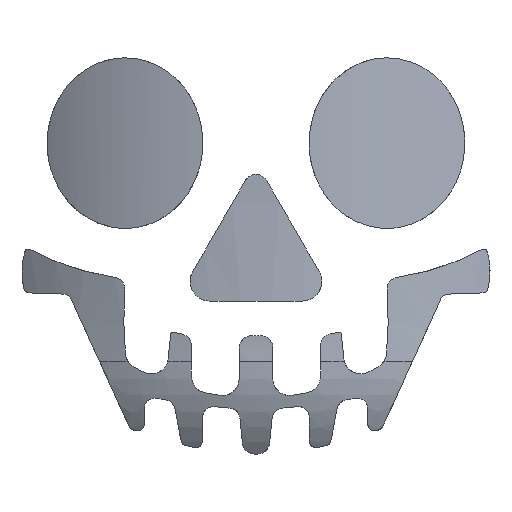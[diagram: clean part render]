
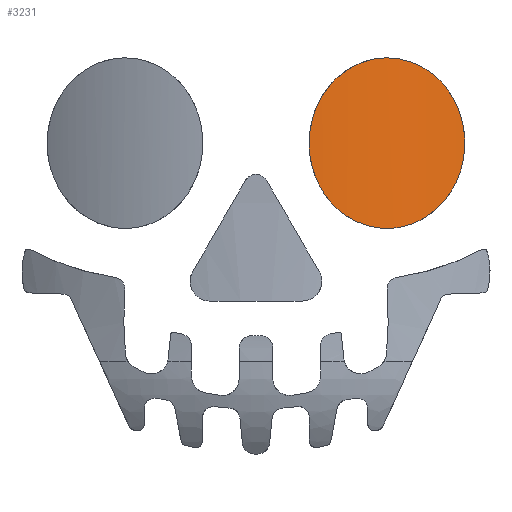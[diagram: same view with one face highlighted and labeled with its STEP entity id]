
A CAD part, front view. The second image highlights one B-rep face of the part: STEP entity #3231.
In plain terms, the highlighted cylindrical face has radius 20.4 mm (diameter 40.8 mm), a partial arc.
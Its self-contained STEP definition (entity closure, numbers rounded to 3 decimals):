
#124=CYLINDRICAL_SURFACE('',#3490,20.4);
#611=FACE_OUTER_BOUND('',#821,.T.);
#821=EDGE_LOOP('',(#2118,#2119));
#1034=B_SPLINE_CURVE_WITH_KNOTS('',3,(#4993,#4994,#4995,#4996,#4997,#4998,
#4999,#5000,#5001,#5002,#5003,#5004,#5005,#5006,#5007,#5008,#5009,#5010,
#5011,#5012,#5013,#5014,#5015,#5016,#5017,#5018,#5019),.UNSPECIFIED.,.F.,
 .F.,(4,2,2,2,2,2,2,2,2,2,2,3,4),(6.402,6.806,7.308,
7.797,8.136,8.304,8.443,8.617,
9.005,9.417,9.801,10.19,10.35),
 .UNSPECIFIED.);
#1036=B_SPLINE_CURVE_WITH_KNOTS('',3,(#5026,#5027,#5028,#5029,#5030,#5031,
#5032,#5033,#5034,#5035,#5036,#5037,#5038,#5039,#5040,#5041,#5042,#5043,
#5044,#5045,#5046,#5047),.UNSPECIFIED.,.F.,.F.,(4,2,2,2,2,2,2,2,2,2,4),
(10.35,10.604,11.084,11.904,13.275,
14.006,15.189,15.777,16.183,16.578,
16.593),.UNSPECIFIED.);
#1293=VERTEX_POINT('',#4990);
#1294=VERTEX_POINT('',#4992);
#1603=EDGE_CURVE('',#1293,#1294,#1034,.T.);
#1606=EDGE_CURVE('',#1294,#1293,#1036,.T.);
#2118=ORIENTED_EDGE('',*,*,#1603,.F.);
#2119=ORIENTED_EDGE('',*,*,#1606,.F.);
#3231=ADVANCED_FACE('',(#611),#124,.T.);
#3490=AXIS2_PLACEMENT_3D('',#5025,#3663,#3664);
#3663=DIRECTION('center_axis',(0.,0.,1.));
#3664=DIRECTION('ref_axis',(-1.,0.,0.));
#4990=CARTESIAN_POINT('',(24.232,-48.483,41.317));
#4992=CARTESIAN_POINT('',(23.888,-48.609,31.959));
#4993=CARTESIAN_POINT('Ctrl Pts',(24.232,-48.483,41.317));
#4994=CARTESIAN_POINT('Ctrl Pts',(24.703,-48.305,41.316));
#4995=CARTESIAN_POINT('Ctrl Pts',(25.169,-48.109,41.229));
#4996=CARTESIAN_POINT('Ctrl Pts',(26.147,-47.656,40.869));
#4997=CARTESIAN_POINT('Ctrl Pts',(26.639,-47.399,40.555));
#4998=CARTESIAN_POINT('Ctrl Pts',(27.471,-46.929,39.751));
#4999=CARTESIAN_POINT('Ctrl Pts',(27.814,-46.716,39.265));
#5000=CARTESIAN_POINT('Ctrl Pts',(28.235,-46.446,38.342));
#5001=CARTESIAN_POINT('Ctrl Pts',(28.361,-46.362,37.938));
#5002=CARTESIAN_POINT('Ctrl Pts',(28.472,-46.287,37.308));
#5003=CARTESIAN_POINT('Ctrl Pts',(28.496,-46.27,37.095));
#5004=CARTESIAN_POINT('Ctrl Pts',(28.515,-46.257,36.703));
#5005=CARTESIAN_POINT('Ctrl Pts',(28.514,-46.258,36.525));
#5006=CARTESIAN_POINT('Ctrl Pts',(28.491,-46.273,36.125));
#5007=CARTESIAN_POINT('Ctrl Pts',(28.464,-46.292,35.902));
#5008=CARTESIAN_POINT('Ctrl Pts',(28.33,-46.382,35.191));
#5009=CARTESIAN_POINT('Ctrl Pts',(28.17,-46.489,34.728));
#5010=CARTESIAN_POINT('Ctrl Pts',(27.704,-46.784,33.839));
#5011=CARTESIAN_POINT('Ctrl Pts',(27.395,-46.973,33.428));
#5012=CARTESIAN_POINT('Ctrl Pts',(26.687,-47.371,32.758));
#5013=CARTESIAN_POINT('Ctrl Pts',(26.297,-47.577,32.493));
#5014=CARTESIAN_POINT('Ctrl Pts',(25.437,-47.99,32.104));
#5015=CARTESIAN_POINT('Ctrl Pts',(24.97,-48.195,31.983));
#5016=CARTESIAN_POINT('Ctrl Pts',(24.488,-48.385,31.951));
#5017=CARTESIAN_POINT('Ctrl Pts',(24.29,-48.462,31.939));
#5018=CARTESIAN_POINT('Ctrl Pts',(24.089,-48.538,31.941));
#5019=CARTESIAN_POINT('Ctrl Pts',(23.888,-48.609,31.959));
#5025=CARTESIAN_POINT('Origin',(17.032,-29.396,43.83));
#5026=CARTESIAN_POINT('Ctrl Pts',(23.888,-48.609,31.959));
#5027=CARTESIAN_POINT('Ctrl Pts',(23.57,-48.723,31.987));
#5028=CARTESIAN_POINT('Ctrl Pts',(23.251,-48.828,32.055));
#5029=CARTESIAN_POINT('Ctrl Pts',(22.354,-49.099,32.364));
#5030=CARTESIAN_POINT('Ctrl Pts',(21.893,-49.211,32.679));
#5031=CARTESIAN_POINT('Ctrl Pts',(20.999,-49.415,33.458));
#5032=CARTESIAN_POINT('Ctrl Pts',(20.668,-49.47,34.003));
#5033=CARTESIAN_POINT('Ctrl Pts',(20.174,-49.555,34.984));
#5034=CARTESIAN_POINT('Ctrl Pts',(20.013,-49.577,35.626));
#5035=CARTESIAN_POINT('Ctrl Pts',(19.942,-49.587,36.567));
#5036=CARTESIAN_POINT('Ctrl Pts',(19.949,-49.586,36.897));
#5037=CARTESIAN_POINT('Ctrl Pts',(20.049,-49.572,37.752));
#5038=CARTESIAN_POINT('Ctrl Pts',(20.207,-49.551,38.392));
#5039=CARTESIAN_POINT('Ctrl Pts',(20.735,-49.458,39.358));
#5040=CARTESIAN_POINT('Ctrl Pts',(21.051,-49.404,39.854));
#5041=CARTESIAN_POINT('Ctrl Pts',(21.961,-49.195,40.636));
#5042=CARTESIAN_POINT('Ctrl Pts',(22.373,-49.09,40.884));
#5043=CARTESIAN_POINT('Ctrl Pts',(23.262,-48.827,41.223));
#5044=CARTESIAN_POINT('Ctrl Pts',(23.72,-48.675,41.311));
#5045=CARTESIAN_POINT('Ctrl Pts',(24.199,-48.496,41.317));
#5046=CARTESIAN_POINT('Ctrl Pts',(24.216,-48.489,41.317));
#5047=CARTESIAN_POINT('Ctrl Pts',(24.232,-48.483,41.317));
